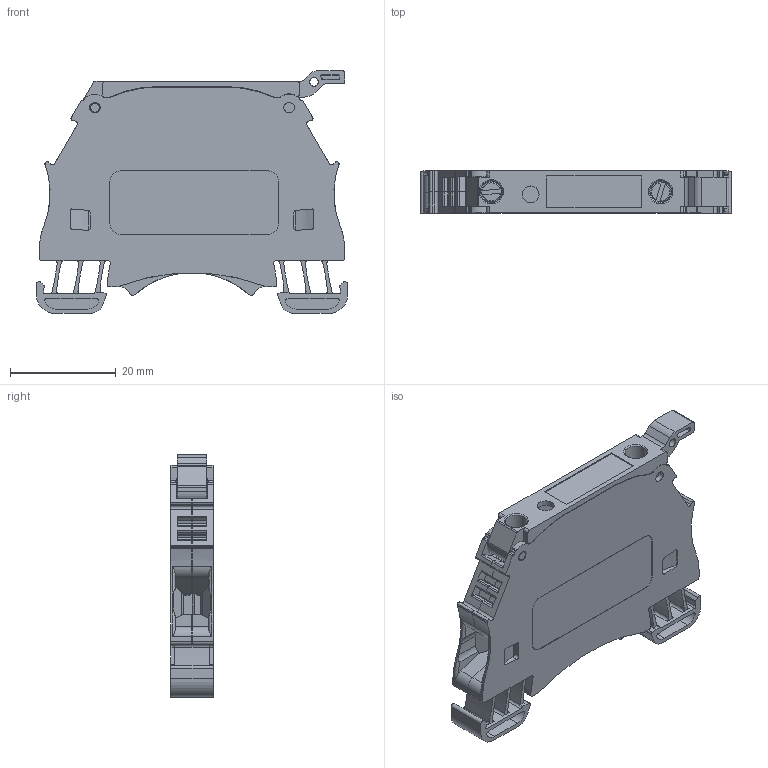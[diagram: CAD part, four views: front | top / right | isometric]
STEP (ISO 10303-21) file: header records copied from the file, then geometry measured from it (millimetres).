
FILE_DESCRIPTION(('STEP AP203'), '1');
FILE_NAME('RBT4F NT', '2022-08-26T11:54:11', ('admin'), (''), 'C3D Converter', 'C3D Toolkit', '');
FILE_SCHEMA(('CONFIG_CONTROL_DESIGN'));
Length unit declared in the file: millimetre
Products named in the file (4): RCT4F NT\X2\X\0×4D5605B0X5916\X0\_step; DBK 4 F
Assembly tree (5 placements, depth 2):
  RCT4F NT\X2\X\0×4D5605B0X5916\X0\_step
    DBK 4 F  x2
    DBK 4 F  x2
    DBK 4 F
Bounding box: 59 x 8 x 46 mm (x, y, z)
Volume: 8908.7 mm3; surface area: 15242.4 mm2
Topology: 5 solids, 5 shells, 1153 faces, 3333 edges, 2207 vertices
Faces by surface type: plane 624, cylinder 489, torus 18, cone 18, bspline 4
Full cylindrical faces by diameter (mm): 1.9 x2, 2 x4, 2.2 x2, 2.3 x2, 2.65 x2, 3 x2, 3.2 x1, 3.8 x2, 4.2 x4
Entity records: 33206 total; most frequent: CARTESIAN_POINT 9738, ORIENTED_EDGE 3846, DIRECTION 3643, EDGE_CURVE 1923, VERTEX_POINT 1289, LINE 1253, VECTOR 1253, AXIS2_PLACEMENT_3D 1195
